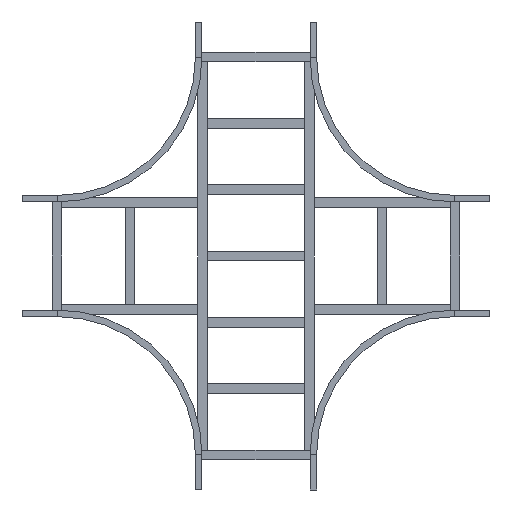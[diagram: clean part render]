
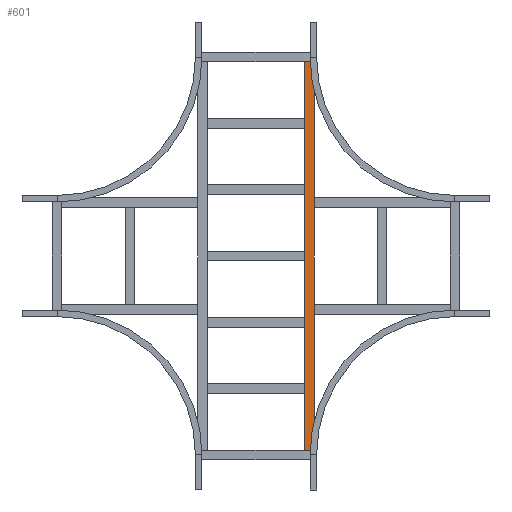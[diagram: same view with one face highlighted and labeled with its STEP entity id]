
A CAD part, front view. The second image highlights one B-rep face of the part: STEP entity #601.
In plain terms, the highlighted planar face has unit normal (0, -1, 0).
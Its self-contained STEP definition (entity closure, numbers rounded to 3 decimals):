
#189 = LINE ( 'NONE', #1208, #320 ) ;
#238 = LINE ( 'NONE', #2262, #1751 ) ;
#293 = CARTESIAN_POINT ( 'NONE',  ( 829.75, 0., 20.25 ) ) ;
#320 = VECTOR ( 'NONE', #1243, 1000. ) ;
#326 = VERTEX_POINT ( 'NONE', #3046 ) ;
#330 = DIRECTION ( 'NONE',  ( 0., 1., 0. ) ) ;
#377 = VERTEX_POINT ( 'NONE', #2972 ) ;
#504 = LINE ( 'NONE', #2474, #2526 ) ;
#601 = ADVANCED_FACE ( 'NONE', ( #1612 ), #1825, .F. ) ;
#662 = CARTESIAN_POINT ( 'NONE',  ( 829.75, 0., -20.25 ) ) ;
#790 = ORIENTED_EDGE ( 'NONE', *, *, #2847, .F. ) ;
#913 = VERTEX_POINT ( 'NONE', #1081 ) ;
#982 = EDGE_CURVE ( 'NONE', #326, #3120, #2635, .T. ) ;
#1081 = CARTESIAN_POINT ( 'NONE',  ( 829.75, 0., 20.25 ) ) ;
#1208 = CARTESIAN_POINT ( 'NONE',  ( -829.75, 0., 20.25 ) ) ;
#1243 = DIRECTION ( 'NONE',  ( 0., 0., -1. ) ) ;
#1415 = DIRECTION ( 'NONE',  ( -1., 0., 0. ) ) ;
#1612 = FACE_OUTER_BOUND ( 'NONE', #1721, .T. ) ;
#1721 = EDGE_LOOP ( 'NONE', ( #2603, #3043, #790, #2381 ) ) ;
#1751 = VECTOR ( 'NONE', #2006, 1000. ) ;
#1815 = AXIS2_PLACEMENT_3D ( 'NONE', #293, #330, #2346 ) ;
#1825 = PLANE ( 'NONE',  #1815 ) ;
#2006 = DIRECTION ( 'NONE',  ( 0., 0., -1. ) ) ;
#2262 = CARTESIAN_POINT ( 'NONE',  ( 829.75, 0., 20.25 ) ) ;
#2346 = DIRECTION ( 'NONE',  ( 0., 0., 1. ) ) ;
#2381 = ORIENTED_EDGE ( 'NONE', *, *, #3073, .T. ) ;
#2421 = VECTOR ( 'NONE', #1415, 1000. ) ;
#2458 = CARTESIAN_POINT ( 'NONE',  ( -829.75, 0., -20.25 ) ) ;
#2474 = CARTESIAN_POINT ( 'NONE',  ( 829.75, 0., 20.25 ) ) ;
#2503 = EDGE_CURVE ( 'NONE', #377, #3120, #189, .T. ) ;
#2507 = DIRECTION ( 'NONE',  ( -1., 0., 0. ) ) ;
#2526 = VECTOR ( 'NONE', #2507, 1000. ) ;
#2603 = ORIENTED_EDGE ( 'NONE', *, *, #2503, .T. ) ;
#2635 = LINE ( 'NONE', #662, #2421 ) ;
#2847 = EDGE_CURVE ( 'NONE', #913, #326, #238, .T. ) ;
#2972 = CARTESIAN_POINT ( 'NONE',  ( -829.75, 0., 20.25 ) ) ;
#3043 = ORIENTED_EDGE ( 'NONE', *, *, #982, .F. ) ;
#3046 = CARTESIAN_POINT ( 'NONE',  ( 829.75, 0., -20.25 ) ) ;
#3073 = EDGE_CURVE ( 'NONE', #913, #377, #504, .T. ) ;
#3120 = VERTEX_POINT ( 'NONE', #2458 ) ;
